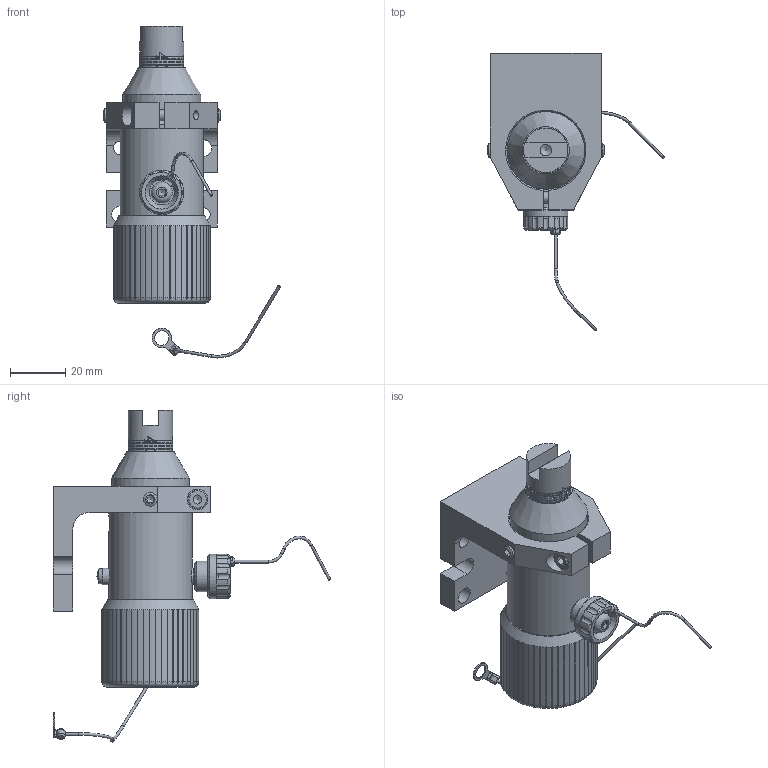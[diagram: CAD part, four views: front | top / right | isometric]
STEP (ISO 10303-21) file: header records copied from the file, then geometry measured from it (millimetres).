
FILE_DESCRIPTION(/* description */ (''),/* implementation_level */ '2;1');
FILE_NAME(/* name */ 'C:\Local Work Area\Progetti\AP\CALIBRI\200.00 CORSOIO OGGETTIVATO A L\200.00.stp',/* time_stamp */ '2015-03-30T16:04:21+02:00',/* author */ ('CAD5'),/* organization */ (''),/* preprocessor_version */ 'ST-DEVELOPER v15.2',/* originating_system */ 'Autodesk Inventor 2014',/* authorisation */ '');
FILE_SCHEMA (('AUTOMOTIVE_DESIGN { 1 0 10303 214 3 1 1 }'));
Length unit declared in the file: millimetre
Products named in the file (18): 200.11 C; 200.12 C; 200.13 C; 200.16 B; 61903_PART1; 61903_PART2; 61903_PART3; 61903; VOLANTINO ZIGRINATO - 130 10 100; catenella-1; catenella-2; catenella; SPINA CIL D6x35 UNI EN ISO8735 A; VITE TBEI M4x16 ISO 7380; VITE TCEI M004X016 UNI 5931; GRANO M5x8 UNI 5927; 200.17; 200.00 C
Bounding box: 63.79 x 99.98 x 119.72 mm (x, y, z)
Volume: 86676.7 mm3; surface area: 39940.2 mm2
Topology: 28 solids, 28 shells, 798 faces, 2162 edges, 1418 vertices
Faces by surface type: plane 373, cylinder 232, bspline 117, cone 34, torus 30, sphere 12
Full cylindrical faces by diameter (mm): 1 x6, 3.242 x1, 3.243 x2, 4 x2, 4.134 x4, 4.3 x2, 4.5 x1, 4.917 x2, 5 x3, 5.2 x2, 5.333 x1, 6 x8, 7 x1, 7.5 x1, 7.6 x1, 7.7 x1, 8.917 x1, 10 x1, 11 x1, 13.867 x1, 14 x1, 15.2 x5, 16 x9, 17 x2, 20.4 x2, 21 x1, 26 x1, 26.7 x2, 27.8 x2, 28 x1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
Entity records: 26090 total; most frequent: CARTESIAN_POINT 8052, ORIENTED_EDGE 3874, DIRECTION 3229, EDGE_CURVE 1935, VERTEX_POINT 1340, AXIS2_PLACEMENT_3D 1238, EDGE_LOOP 965, ADVANCED_FACE 777
